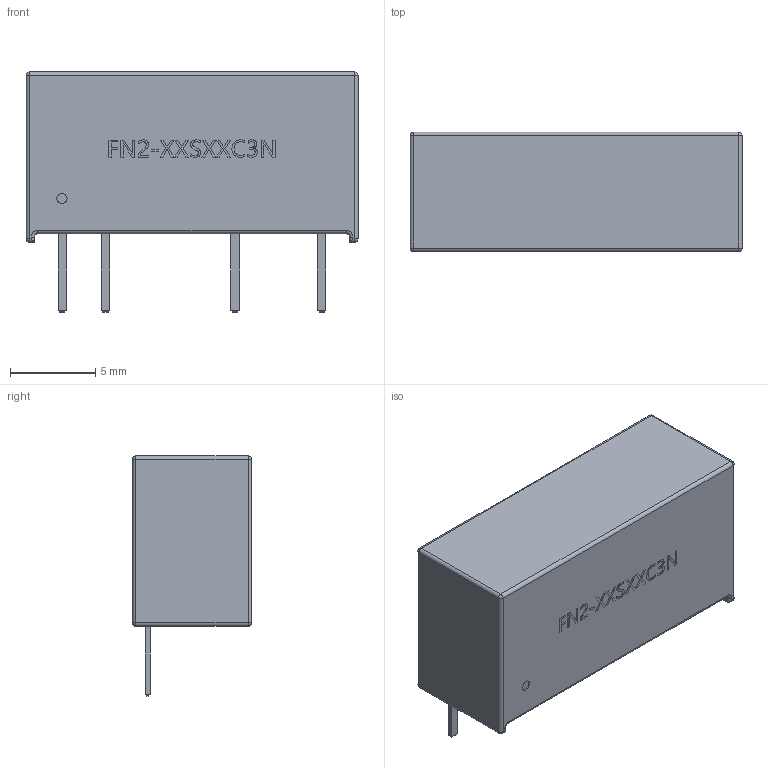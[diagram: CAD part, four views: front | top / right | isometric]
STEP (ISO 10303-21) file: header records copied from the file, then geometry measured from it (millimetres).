
FILE_DESCRIPTION (( 'STEP AP214' ), '1' );
FILE_NAME ('PWRM-TH_FN2-XXSXXC3N.step', '2022-07-09T11:18:41', ( '' ), ( '' ), 'SwSTEP 2.0', 'SolidWorks 2020', '' );
FILE_SCHEMA (( 'AUTOMOTIVE_DESIGN' ));
Length unit declared in the file: millimetre
Products named in the file (1): PWRM-TH_FN2-XXSXXC3N
Bounding box: 19.5 x 7.01 x 14.1 mm (x, y, z)
Volume: 1301.9 mm3; surface area: 807.5 mm2
Topology: 1 solids, 1 shells, 551 faces, 1474 edges, 960 vertices
Faces by surface type: plane 339, bspline 176, cylinder 24, sphere 8, torus 4
Entity records: 24177 total; most frequent: CARTESIAN_POINT 8246, ORIENTED_EDGE 2932, DIRECTION 1902, EDGE_CURVE 1466, VECTOR 1062, LINE 1062, VERTEX_POINT 960, EDGE_LOOP 594
